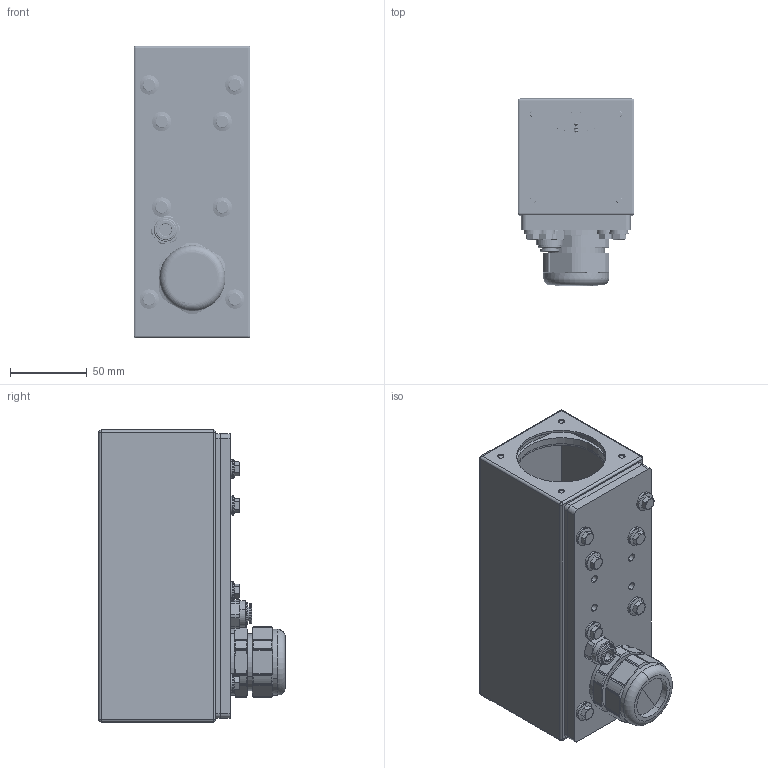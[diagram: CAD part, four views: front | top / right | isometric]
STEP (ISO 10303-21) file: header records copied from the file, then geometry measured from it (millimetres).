
FILE_DESCRIPTION (( 'STEP AP203' ), '1' );
FILE_NAME ('30S-HR.STEP', '2021-09-08T20:21:44', ( '' ), ( '' ), 'SwSTEP 2.0', 'SolidWorks 2020', '' );
FILE_SCHEMA (( 'CONFIG_CONTROL_DESIGN' ));
Length unit declared in the file: inch
Products named in the file (25): 200403; 400106; PG29-B04; 200622; 200343; PG29-04-01-01-03; 200624; 800001; 30S-HR; 51055K14; PG29-N03; PG29-I01; 200623; 400217; 800005; 93625A200; 400110; 93285A112_93285A112; 93285A119_93285A119; SP-M5-2; 400102; 200404; PG29-S01; 9452K140_9452K14; 800004
Assembly tree (43 placements, depth 3):
  30S-HR
    200404
      200403
      SP-M5-2  x4
      800001  x4
    400110
    400217
    200343
    400106
    200622
    PG29-04-01-01-03
      PG29-B04
      PG29-I01
      PG29-S01
      PG29-N03
    200623
    200624
    51055K14
    93625A200  x4
    9452K140_9452K14  x4
    800004  x8
      800005
      400102
    93285A112_93285A112
    93285A119_93285A119
Bounding box: 76.2 x 121.72 x 190.5 mm (x, y, z)
Volume: 289882.3 mm3; surface area: 228496.8 mm2
Topology: 52 solids, 52 shells, 1894 faces, 4872 edges, 3126 vertices
Faces by surface type: cylinder 899, plane 594, cone 311, bspline 49, torus 33, sphere 8
Entity records: 47384 total; most frequent: CARTESIAN_POINT 22196, ORIENTED_EDGE 4714, DIRECTION 4448, EDGE_CURVE 2357, AXIS2_PLACEMENT_3D 1712, VERTEX_POINT 1503, EDGE_LOOP 1074, VECTOR 1024
